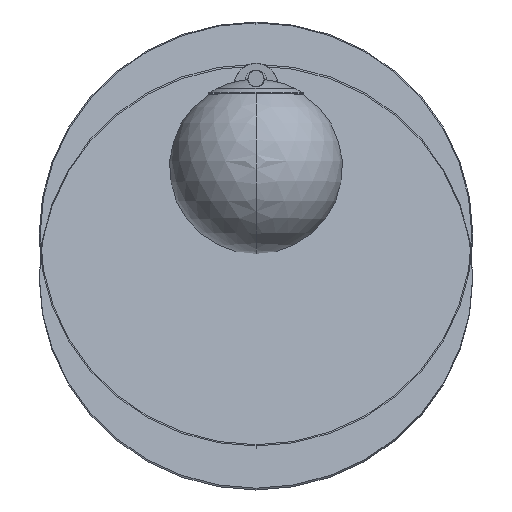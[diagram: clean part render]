
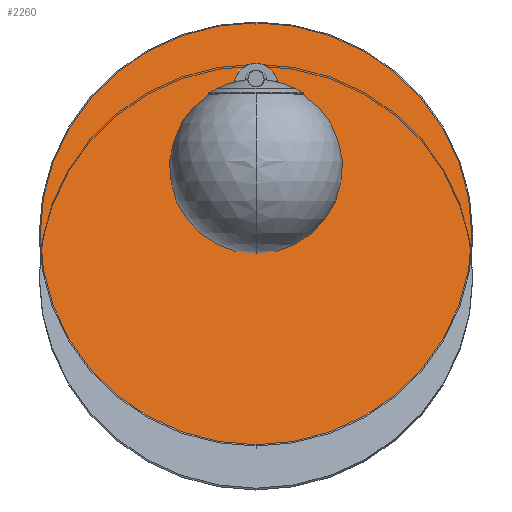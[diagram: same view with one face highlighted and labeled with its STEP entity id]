
A CAD part, top view. The second image highlights one B-rep face of the part: STEP entity #2260.
In plain terms, the highlighted planar face has unit normal (0, 0.208, 0.978).
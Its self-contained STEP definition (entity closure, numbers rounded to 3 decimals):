
#2165=CARTESIAN_POINT('',(0.,-78.18,
-3376.869));
#2166=DIRECTION('',(0.,0.208,0.978));
#2167=DIRECTION('',(0.,0.978,-0.208));
#2168=AXIS2_PLACEMENT_3D('',#2165,#2166,#2167);
#2170=CARTESIAN_POINT('',(0.,-78.18,
-3376.869));
#2171=DIRECTION('',(0.,0.208,0.978));
#2172=DIRECTION('',(0.,-0.978,0.208));
#2173=AXIS2_PLACEMENT_3D('',#2170,#2171,#2172);
#2241=CARTESIAN_POINT('',(0.,116.472,
-3418.244));
#2242=CARTESIAN_POINT('',(0.,-272.831,
-3335.495));
#2243=VERTEX_POINT('',#2241);
#2244=VERTEX_POINT('',#2242);
#2249=CARTESIAN_POINT('',(0.,-78.18,
-3376.869));
#2250=DIRECTION('',(0.,-0.208,-0.978));
#2251=DIRECTION('',(0.,-0.978,0.208));
#2252=AXIS2_PLACEMENT_3D('',#2249,#2250,#2251);
#2253=PLANE('',#2252);
#2255=ORIENTED_EDGE('',*,*,#2254,.F.);
#2257=ORIENTED_EDGE('',*,*,#2256,.F.);
#2258=EDGE_LOOP('',(#2255,#2257));
#2259=FACE_OUTER_BOUND('',#2258,.F.);
#2260=ADVANCED_FACE('',(#2259),#2253,.F.);
#2169=CIRCLE('',#2168,199.);
#2174=CIRCLE('',#2173,199.);
#2254=EDGE_CURVE('',#2243,#2244,#2169,.T.);
#2256=EDGE_CURVE('',#2244,#2243,#2174,.T.);
